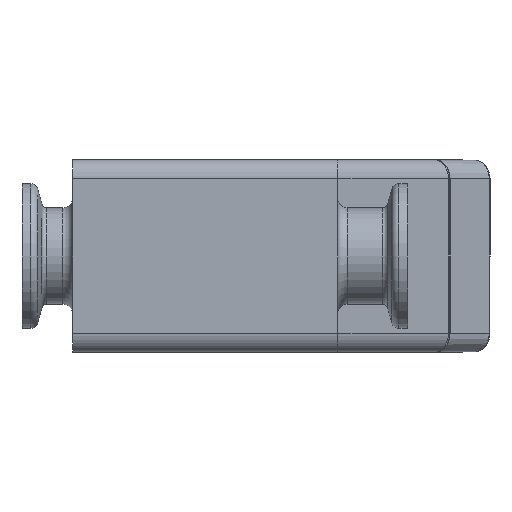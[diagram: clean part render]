
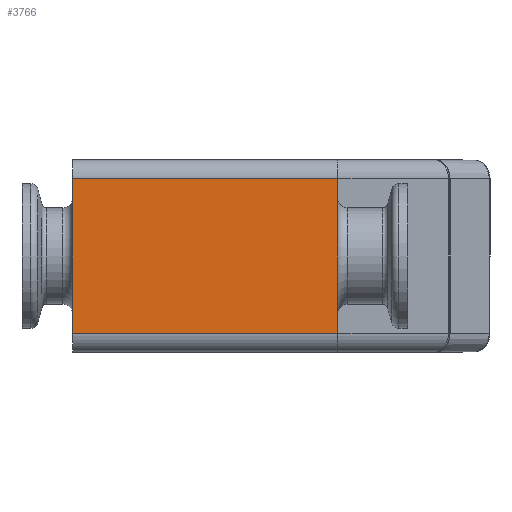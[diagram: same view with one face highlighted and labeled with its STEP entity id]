
A CAD part, front view. The second image highlights one B-rep face of the part: STEP entity #3766.
In plain terms, the highlighted planar face has unit normal (0, -1, 0).
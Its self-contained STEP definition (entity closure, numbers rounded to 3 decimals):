
#2016=FACE_OUTER_BOUND('',#5063,.T.);
#2320=LINE('',#13671,#2908);
#2321=LINE('',#13675,#2909);
#2322=LINE('',#13678,#2910);
#2323=LINE('',#13679,#2911);
#2908=VECTOR('',#11105,1.);
#2909=VECTOR('',#11110,1.);
#2910=VECTOR('',#11111,1.);
#2911=VECTOR('',#11112,1.);
#3766=ADVANCED_FACE('',(#2016),#4178,.T.);
#4178=PLANE('',#9975);
#5063=EDGE_LOOP('',(#5900,#5901,#5902,#5903));
#5900=ORIENTED_EDGE('',*,*,#8531,.F.);
#5901=ORIENTED_EDGE('',*,*,#8532,.T.);
#5902=ORIENTED_EDGE('',*,*,#8529,.T.);
#5903=ORIENTED_EDGE('',*,*,#8533,.T.);
#7755=VERTEX_POINT('',#13670);
#7756=VERTEX_POINT('',#13672);
#7757=VERTEX_POINT('',#13676);
#7758=VERTEX_POINT('',#13677);
#8529=EDGE_CURVE('',#7756,#7755,#2320,.T.);
#8531=EDGE_CURVE('',#7757,#7758,#2321,.T.);
#8532=EDGE_CURVE('',#7757,#7756,#2322,.T.);
#8533=EDGE_CURVE('',#7755,#7758,#2323,.T.);
#9975=AXIS2_PLACEMENT_3D('',#13680,#11113,#11114);
#11105=DIRECTION('',(0.,0.,-1.));
#11110=DIRECTION('',(0.,0.,-1.));
#11111=DIRECTION('',(-1.,0.,0.));
#11112=DIRECTION('',(1.,0.,0.));
#11113=DIRECTION('',(0.,-1.,0.));
#11114=DIRECTION('',(1.,0.,0.));
#13670=CARTESIAN_POINT('',(0.,0.,-16.));
#13671=CARTESIAN_POINT('',(0.,0.,20.));
#13672=CARTESIAN_POINT('',(0.,0.,16.));
#13675=CARTESIAN_POINT('',(55.,0.,20.));
#13676=CARTESIAN_POINT('',(55.,0.,16.));
#13677=CARTESIAN_POINT('',(55.,0.,-16.));
#13678=CARTESIAN_POINT('',(0.,0.,
16.));
#13679=CARTESIAN_POINT('',(55.,0.,-16.));
#13680=CARTESIAN_POINT('',(55.,0.,20.));
